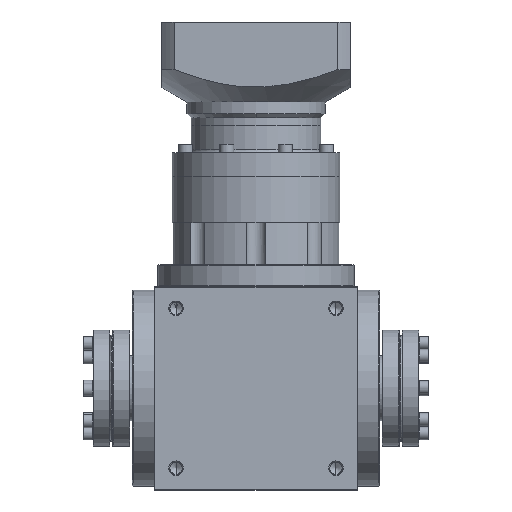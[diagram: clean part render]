
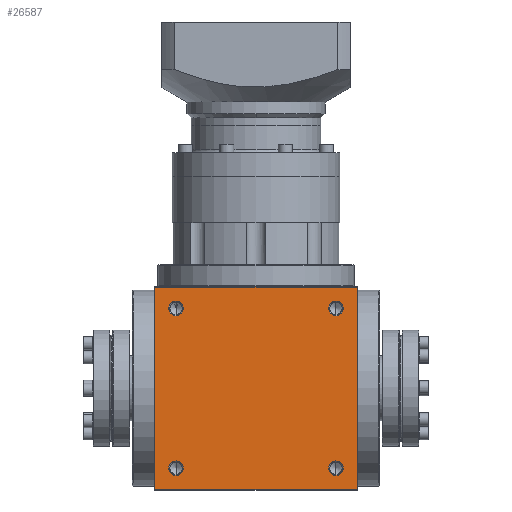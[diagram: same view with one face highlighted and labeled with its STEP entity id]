
A CAD part, front view. The second image highlights one B-rep face of the part: STEP entity #26587.
In plain terms, the highlighted planar face has unit normal (0, -1, 0).
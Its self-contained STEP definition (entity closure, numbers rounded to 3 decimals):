
#895 = DIRECTION ( 'NONE',  ( 0., 0., -1. ) ) ;
#1727 = DIRECTION ( 'NONE',  ( 0., -1., 0. ) ) ;
#2225 = LINE ( 'NONE', #50306, #32894 ) ;
#2243 = AXIS2_PLACEMENT_3D ( 'NONE', #53977, #19423, #59768 ) ;
#3655 = CARTESIAN_POINT ( 'NONE',  ( -69.5, -70., 0.5 ) ) ;
#4085 = CARTESIAN_POINT ( 'NONE',  ( -55., -70., 119.975 ) ) ;
#4593 = DIRECTION ( 'NONE',  ( 0., 1., 0. ) ) ;
#5379 = EDGE_LOOP ( 'NONE', ( #30255, #21099 ) ) ;
#6150 = ORIENTED_EDGE ( 'NONE', *, *, #11845, .F. ) ;
#7896 = DIRECTION ( 'NONE',  ( 0., -1., 0. ) ) ;
#7925 = DIRECTION ( 'NONE',  ( 0., -1., 0. ) ) ;
#9306 = AXIS2_PLACEMENT_3D ( 'NONE', #68933, #34359, #74755 ) ;
#9758 = EDGE_CURVE ( 'NONE', #73468, #43981, #46778, .T. ) ;
#10885 = CIRCLE ( 'NONE', #60605, 5.025 ) ;
#11845 = EDGE_CURVE ( 'NONE', #21041, #63868, #61812, .T. ) ;
#11856 = AXIS2_PLACEMENT_3D ( 'NONE', #29430, #69840, #35265 ) ;
#12657 = ORIENTED_EDGE ( 'NONE', *, *, #42295, .F. ) ;
#14268 = ORIENTED_EDGE ( 'NONE', *, *, #51755, .F. ) ;
#14370 = ORIENTED_EDGE ( 'NONE', *, *, #20836, .F. ) ;
#15726 = DIRECTION ( 'NONE',  ( 0., 0., -1. ) ) ;
#17637 = AXIS2_PLACEMENT_3D ( 'NONE', #42513, #7925, #48336 ) ;
#17655 = VERTEX_POINT ( 'NONE', #38832 ) ;
#18145 = CARTESIAN_POINT ( 'NONE',  ( 55., -70., 9.975 ) ) ;
#19423 = DIRECTION ( 'NONE',  ( 0., -1., 0. ) ) ;
#19948 = ORIENTED_EDGE ( 'NONE', *, *, #29332, .F. ) ;
#20482 = CARTESIAN_POINT ( 'NONE',  ( -55., -70., 20.025 ) ) ;
#20787 = AXIS2_PLACEMENT_3D ( 'NONE', #67628, #33034, #73454 ) ;
#20836 = EDGE_CURVE ( 'NONE', #46888, #17655, #39041, .T. ) ;
#21041 = VERTEX_POINT ( 'NONE', #30880 ) ;
#21099 = ORIENTED_EDGE ( 'NONE', *, *, #52902, .F. ) ;
#22496 = VECTOR ( 'NONE', #44281, 1000. ) ;
#23571 = AXIS2_PLACEMENT_3D ( 'NONE', #62135, #4593, #44985 ) ;
#23724 = VERTEX_POINT ( 'NONE', #62529 ) ;
#25637 = AXIS2_PLACEMENT_3D ( 'NONE', #70038, #35464, #895 ) ;
#26544 = EDGE_CURVE ( 'NONE', #63868, #23724, #2225, .T. ) ;
#26587 = ADVANCED_FACE ( 'NONE', ( #73561, #29292, #48322, #58213, #42865 ), #39225, .F. ) ;
#29178 = CARTESIAN_POINT ( 'NONE',  ( 55., -70., 119.975 ) ) ;
#29292 = FACE_BOUND ( 'NONE', #37818, .T. ) ;
#29332 = EDGE_CURVE ( 'NONE', #32353, #30050, #53442, .T. ) ;
#29430 = CARTESIAN_POINT ( 'NONE',  ( -55., -70., 125. ) ) ;
#29942 = AXIS2_PLACEMENT_3D ( 'NONE', #42489, #7896, #48314 ) ;
#30050 = VERTEX_POINT ( 'NONE', #73138 ) ;
#30255 = ORIENTED_EDGE ( 'NONE', *, *, #9758, .F. ) ;
#30880 = CARTESIAN_POINT ( 'NONE',  ( -69.5, -70., 139.5 ) ) ;
#32151 = CARTESIAN_POINT ( 'NONE',  ( -55., -70., 130.025 ) ) ;
#32353 = VERTEX_POINT ( 'NONE', #18145 ) ;
#32894 = VECTOR ( 'NONE', #15726, 1000. ) ;
#32895 = VECTOR ( 'NONE', #72019, 1000. ) ;
#33034 = DIRECTION ( 'NONE',  ( 0., -1., 0. ) ) ;
#33175 = CIRCLE ( 'NONE', #20787, 5.025 ) ;
#33599 = ORIENTED_EDGE ( 'NONE', *, *, #50093, .F. ) ;
#34267 = CIRCLE ( 'NONE', #17637, 5.025 ) ;
#34359 = DIRECTION ( 'NONE',  ( 0., -1., 0. ) ) ;
#35265 = DIRECTION ( 'NONE',  ( 0., 0., -1. ) ) ;
#35464 = DIRECTION ( 'NONE',  ( 0., -1., 0. ) ) ;
#35965 = CIRCLE ( 'NONE', #11856, 5.025 ) ;
#36293 = CARTESIAN_POINT ( 'NONE',  ( 55., -70., 15. ) ) ;
#36381 = DIRECTION ( 'NONE',  ( -1., 0., 0. ) ) ;
#37818 = EDGE_LOOP ( 'NONE', ( #14268, #61333 ) ) ;
#38832 = CARTESIAN_POINT ( 'NONE',  ( 55., -70., 130.025 ) ) ;
#39041 = CIRCLE ( 'NONE', #25637, 5.025 ) ;
#39225 = PLANE ( 'NONE',  #23571 ) ;
#40596 = LINE ( 'NONE', #70972, #52273 ) ;
#42120 = DIRECTION ( 'NONE',  ( 0., 0., -1. ) ) ;
#42268 = CARTESIAN_POINT ( 'NONE',  ( -70., -70., 139.5 ) ) ;
#42295 = EDGE_CURVE ( 'NONE', #23724, #43050, #40596, .T. ) ;
#42489 = CARTESIAN_POINT ( 'NONE',  ( 55., -70., 15. ) ) ;
#42513 = CARTESIAN_POINT ( 'NONE',  ( -55., -70., 125. ) ) ;
#42865 = FACE_OUTER_BOUND ( 'NONE', #48796, .T. ) ;
#43050 = VERTEX_POINT ( 'NONE', #3655 ) ;
#43981 = VERTEX_POINT ( 'NONE', #20482 ) ;
#44281 = DIRECTION ( 'NONE',  ( 0., 0., 1. ) ) ;
#44985 = DIRECTION ( 'NONE',  ( 0., 0., 1. ) ) ;
#46778 = CIRCLE ( 'NONE', #9306, 5.025 ) ;
#46888 = VERTEX_POINT ( 'NONE', #29178 ) ;
#48314 = DIRECTION ( 'NONE',  ( 0., 0., -1. ) ) ;
#48322 = FACE_BOUND ( 'NONE', #63663, .T. ) ;
#48336 = DIRECTION ( 'NONE',  ( 0., 0., -1. ) ) ;
#48796 = EDGE_LOOP ( 'NONE', ( #12657, #60986, #6150, #63216 ) ) ;
#50093 = EDGE_CURVE ( 'NONE', #30050, #32353, #10885, .T. ) ;
#50306 = CARTESIAN_POINT ( 'NONE',  ( 69.5, -70., 140. ) ) ;
#50379 = CARTESIAN_POINT ( 'NONE',  ( -55., -70., 9.975 ) ) ;
#50688 = EDGE_CURVE ( 'NONE', #61091, #50857, #34267, .T. ) ;
#50857 = VERTEX_POINT ( 'NONE', #4085 ) ;
#51755 = EDGE_CURVE ( 'NONE', #50857, #61091, #35965, .T. ) ;
#52273 = VECTOR ( 'NONE', #36381, 1000. ) ;
#52902 = EDGE_CURVE ( 'NONE', #43981, #73468, #54787, .T. ) ;
#53442 = CIRCLE ( 'NONE', #29942, 5.025 ) ;
#53977 = CARTESIAN_POINT ( 'NONE',  ( -55., -70., 15. ) ) ;
#54787 = CIRCLE ( 'NONE', #2243, 5.025 ) ;
#55614 = CARTESIAN_POINT ( 'NONE',  ( -69.5, -70., 140. ) ) ;
#58213 = FACE_BOUND ( 'NONE', #5379, .T. ) ;
#58885 = CARTESIAN_POINT ( 'NONE',  ( 69.5, -70., 139.5 ) ) ;
#59129 = EDGE_LOOP ( 'NONE', ( #14370, #61426 ) ) ;
#59650 = EDGE_CURVE ( 'NONE', #17655, #46888, #33175, .T. ) ;
#59768 = DIRECTION ( 'NONE',  ( 0., 0., -1. ) ) ;
#60605 = AXIS2_PLACEMENT_3D ( 'NONE', #36293, #1727, #42120 ) ;
#60986 = ORIENTED_EDGE ( 'NONE', *, *, #26544, .F. ) ;
#61091 = VERTEX_POINT ( 'NONE', #32151 ) ;
#61333 = ORIENTED_EDGE ( 'NONE', *, *, #50688, .F. ) ;
#61426 = ORIENTED_EDGE ( 'NONE', *, *, #59650, .F. ) ;
#61812 = LINE ( 'NONE', #42268, #32895 ) ;
#62135 = CARTESIAN_POINT ( 'NONE',  ( -70., -70., 140. ) ) ;
#62529 = CARTESIAN_POINT ( 'NONE',  ( 69.5, -70., 0.5 ) ) ;
#63216 = ORIENTED_EDGE ( 'NONE', *, *, #73885, .F. ) ;
#63663 = EDGE_LOOP ( 'NONE', ( #19948, #33599 ) ) ;
#63868 = VERTEX_POINT ( 'NONE', #58885 ) ;
#66712 = LINE ( 'NONE', #55614, #22496 ) ;
#67628 = CARTESIAN_POINT ( 'NONE',  ( 55., -70., 125. ) ) ;
#68933 = CARTESIAN_POINT ( 'NONE',  ( -55., -70., 15. ) ) ;
#69840 = DIRECTION ( 'NONE',  ( 0., -1., 0. ) ) ;
#70038 = CARTESIAN_POINT ( 'NONE',  ( 55., -70., 125. ) ) ;
#70972 = CARTESIAN_POINT ( 'NONE',  ( -70., -70., 0.5 ) ) ;
#72019 = DIRECTION ( 'NONE',  ( 1., 0., 0. ) ) ;
#73138 = CARTESIAN_POINT ( 'NONE',  ( 55., -70., 20.025 ) ) ;
#73454 = DIRECTION ( 'NONE',  ( 0., 0., -1. ) ) ;
#73468 = VERTEX_POINT ( 'NONE', #50379 ) ;
#73561 = FACE_BOUND ( 'NONE', #59129, .T. ) ;
#73885 = EDGE_CURVE ( 'NONE', #43050, #21041, #66712, .T. ) ;
#74755 = DIRECTION ( 'NONE',  ( 0., 0., -1. ) ) ;
